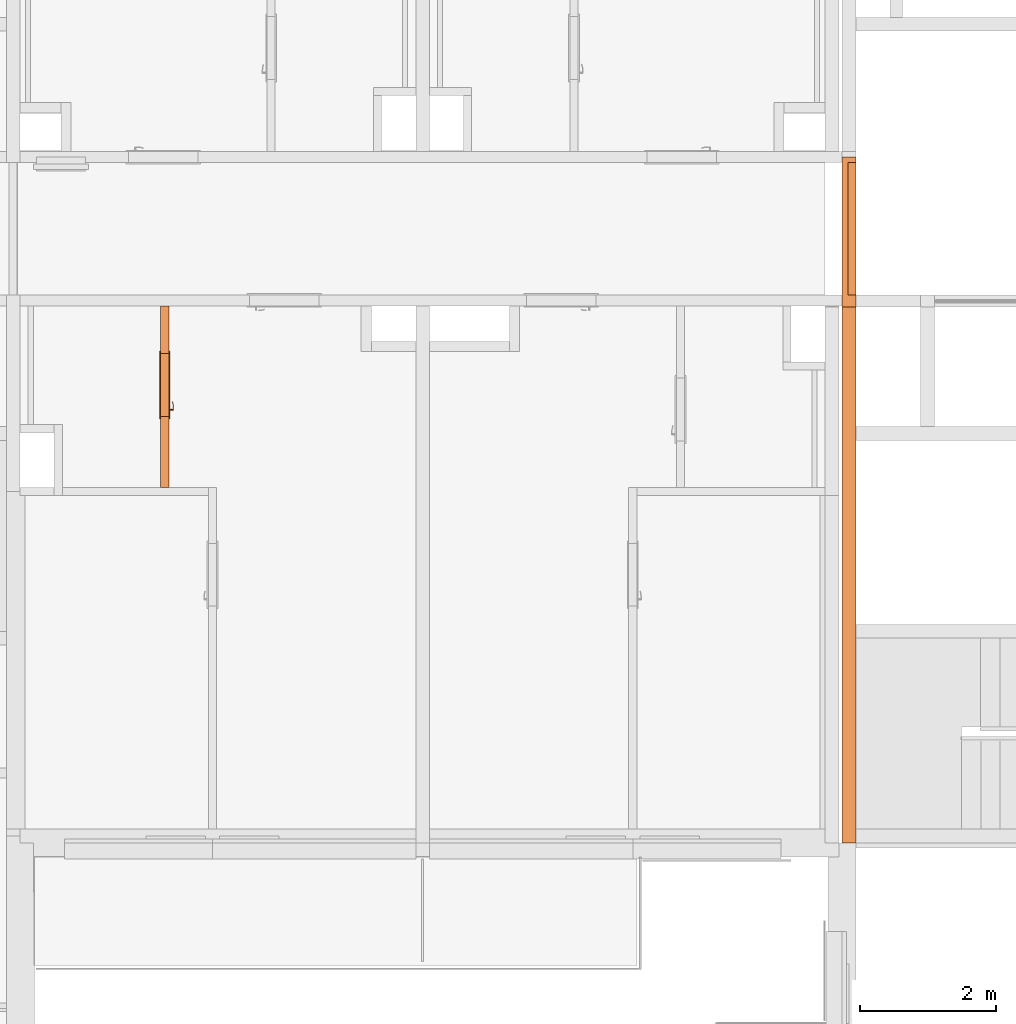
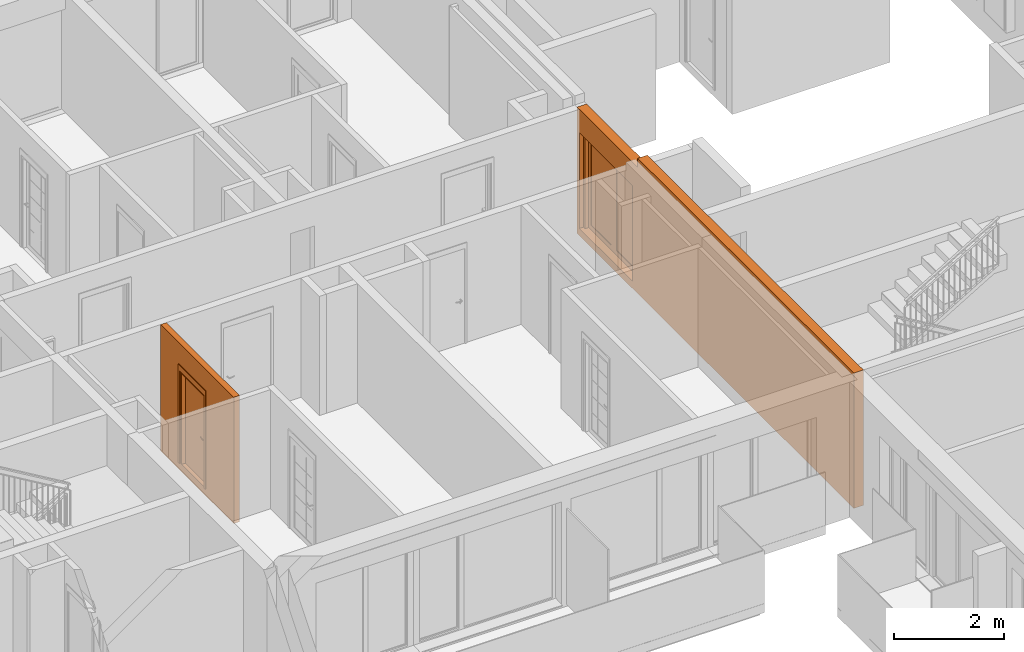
# One storey, part 20 of 66: 4 proxies, 2 openings.
"""IFC2X3 building model written with IfcOpenShell, lengths in millimetres."""

from ifc_helpers import new_model, entity, si_unit, converted_unit, derived_unit, money_unit, direction, frame, origin_with_axes, origin_2d_with_axis, place, context, subcontext, project, spatial, rectangle, extrude, open_shell, faceted_brep, surface_model, source, transform, mapped, material, type_object, element, fill, save


model = new_model("IFC2X3")

# Units and contexts
model_context = context("Model", 3, precision=0.01, world=origin_with_axes(), true_north=direction((0.34421633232, 0.938890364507)))
body_context = subcontext(model_context, "Body", "Model", "MODEL_VIEW")
ifc_project = project(units=[si_unit("LENGTHUNIT", "METRE", prefix="MILLI"), si_unit("AREAUNIT", "SQUARE_METRE"), si_unit("VOLUMEUNIT", "CUBIC_METRE"), converted_unit("PLANEANGLEUNIT", "DEGREE", entity("IfcPlaneAngleMeasure", 0.0174532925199), si_unit("PLANEANGLEUNIT", "RADIAN"), dimensions=[0, 0, 0, 0, 0, 0, 0]), si_unit("SOLIDANGLEUNIT", "STERADIAN"), money_unit("USD"), converted_unit("TIMEUNIT", "Year", entity("IfcTimeMeasure", 31556926.0), si_unit("TIMEUNIT", "SECOND"), dimensions=[0, 0, 1, 0, 0, 0, 0]), si_unit("MASSUNIT", "GRAM", prefix="KILO"), si_unit("THERMODYNAMICTEMPERATUREUNIT", "DEGREE_CELSIUS"), si_unit("LUMINOUSINTENSITYUNIT", "LUMEN"), si_unit("ENERGYUNIT", "JOULE", prefix="MEGA"), derived_unit("THERMALCONDUCTANCEUNIT", [(si_unit("POWERUNIT", "WATT"), 1), (si_unit("LENGTHUNIT", "METRE"), -1), (si_unit("THERMODYNAMICTEMPERATUREUNIT", "KELVIN"), -1)]), derived_unit("SPECIFICHEATCAPACITYUNIT", [(si_unit("ENERGYUNIT", "JOULE"), 1), (si_unit("MASSUNIT", "GRAM", prefix="KILO"), -1), (si_unit("THERMODYNAMICTEMPERATUREUNIT", "KELVIN"), -1)]), derived_unit("MASSDENSITYUNIT", [(si_unit("MASSUNIT", "GRAM", prefix="KILO"), 1), (si_unit("VOLUMEUNIT", "CUBIC_METRE"), -1)])], contexts=[model_context])

# Site, building, storey
site_placement = place(None, origin_with_axes())
site = spatial("IfcSite", under=ifc_project, at=site_placement, Name="USTRONIE MORSKIE", CompositionType="ELEMENT")
building_placement = place(site_placement, origin_with_axes())
building = spatial("IfcBuilding", under=site, at=building_placement, Name="Budynek", CompositionType="ELEMENT")
storey_placement = place(building_placement, frame((0.0, 0.0, 10000.0), z_axis=(0.0, 0.0, 1.0), x_axis=(1.0, 0.0, 0.0)))
storey = spatial("IfcBuildingStorey", under=building, at=storey_placement, Name="PIĘTRO 3", CompositionType="ELEMENT", Elevation=10000.0)

# Proxies, opening
ifc_material_1 = material(Name="Bloczki silikatowe")
building_element_proxy_type_1 = type_object("IfcBuildingElementProxyType", Name="Bloczki silikatowe 120", PredefinedType="NOTDEFINED")
proxy_1_placement = place(storey_placement, frame((398537.940089, 731951.199132, -160.0), z_axis=(0.0, 0.0, 1.0), x_axis=(0.0, 1.0, 0.0)))
proxy_1 = element("IfcBuildingElementProxy", 1, at=proxy_1_placement, inside=storey, type_object=building_element_proxy_type_1, material=ifc_material_1, Name="SW-04", context=body_context, shape_type="Brep", body=[
    faceted_brep([(2720.00298174, -60.0, 2800.0), (2720.00301893, 60.0, 2800.0), (59.9999999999, 60.0, 2800.0), (59.9999999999, -60.0, 2800.0), (2720.00298174, -60.0, 0.0), (2720.00301893, 60.0, 0.0), (59.9999999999, 60.0, 0.0), (59.9999999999, -60.0, 0.0)], [[[0, 1, 2, 3]], [[1, 0, 4, 5]], [[1, 5, 6, 2]], [[7, 3, 2, 6]], [[4, 0, 3, 7]], [[5, 4, 7, 6]]]),
])
opening_1_placement = place(proxy_1_placement, frame((1559.96669926, 0.0, 160.0), z_axis=(0.0, 0.0, 1.0), x_axis=(1.0, 0.0, 0.0)))
opening_1 = element("IfcOpeningElement", 2, at=opening_1_placement, cuts=proxy_1, Name="Dw.4", context=body_context, shape_type="SweptSolid", body=[
    extrude(rectangle(XDim=920.0, YDim=2070.0, at=origin_2d_with_axis()), frame((0.0, 120.0, 1035.0), z_axis=(0.0, 1.0, 0.0), x_axis=(1.0, 0.0, 0.0)), (0.0, 0.0, -1.0), 360.0),
    extrude(rectangle(XDim=994.0, YDim=2177.0, at=origin_2d_with_axis()), frame((0.0, 60.0, 1088.5), z_axis=(0.0, 1.0, 0.0), x_axis=(1.0, 0.0, 0.0)), (0.0, 0.0, 1.0), 120.0),
    extrude(rectangle(XDim=994.0, YDim=2177.0, at=origin_2d_with_axis()), frame((0.0, -60.0, 1088.5), z_axis=(0.0, -1.0, 0.0), x_axis=(1.0, 0.0, 0.0)), (0.0, 0.0, 1.0), 120.0),
])
building_element_proxy_type_2 = type_object("IfcBuildingElementProxyType", Name="Drzwi 23", PredefinedType="NOTDEFINED")
shared_shape_1 = source(origin_with_axes(), body_context, "Body", "SurfaceModel", [
    faceted_brep([(460.0, -115.0, 0.0), (460.0, -120.0, 0.0), (435.0, -120.0, 0.0), (435.0, -115.0, 0.0), (460.0, -115.0, 2070.0), (460.0, -120.0, 2070.0), (435.0, -120.0, 2045.0), (435.0, -115.0, 2045.0)], [[[0, 1, 2, 3]], [[4, 5, 1, 0]], [[1, 5, 6, 2]], [[3, 2, 6, 7]], [[0, 3, 7, 4]], [[7, 6, 5, 4]]]),
    faceted_brep([(-460.0, -115.0, 2070.0), (-460.0, -120.0, 2070.0), (-435.0, -120.0, 2045.0), (-435.0, -115.0, 2045.0), (-460.0, -115.0, 0.0), (-460.0, -120.0, 0.0), (-435.0, -120.0, 0.0), (-435.0, -115.0, 0.0)], [[[0, 1, 2, 3]], [[4, 5, 1, 0]], [[1, 5, 6, 2]], [[3, 2, 6, 7]], [[0, 3, 7, 4]], [[7, 6, 5, 4]]]),
    faceted_brep([(435.0, -115.0, 2045.0), (435.0, -120.0, 2045.0), (-435.0, -120.0, 2045.0), (-435.0, -115.0, 2045.0), (460.0, -115.0, 2070.0), (460.0, -120.0, 2070.0), (-460.0, -120.0, 2070.0), (-460.0, -115.0, 2070.0)], [[[0, 1, 2, 3]], [[4, 5, 1, 0]], [[1, 5, 6, 2]], [[3, 2, 6, 7]], [[0, 3, 7, 4]], [[7, 6, 5, 4]]]),
    faceted_brep([(497.0, -139.0, 0.0), (447.0, -139.0, 0.0), (447.0, -120.0, 0.0), (497.0, -120.0, 0.0), (497.0, -139.0, 2177.0), (447.0, -139.0, 2057.0), (447.0, -120.0, 2057.0), (497.0, -120.0, 2177.0)], [[[0, 1, 2, 3]], [[0, 4, 5, 1]], [[1, 5, 6, 2]], [[3, 2, 6, 7]], [[4, 0, 3, 7]], [[5, 4, 7, 6]]]),
    faceted_brep([(-497.0, -139.0, 2177.0), (-447.0, -139.0, 2057.0), (-447.0, -120.0, 2057.0), (-497.0, -120.0, 2177.0), (-497.0, -139.0, 0.0), (-447.0, -139.0, 0.0), (-447.0, -120.0, 0.0), (-497.0, -120.0, 0.0)], [[[0, 1, 2, 3]], [[0, 4, 5, 1]], [[1, 5, 6, 2]], [[3, 2, 6, 7]], [[4, 0, 3, 7]], [[5, 4, 7, 6]]]),
    faceted_brep([(497.0, -139.0, 2177.0), (447.0, -139.0, 2057.0), (447.0, -120.0, 2057.0), (497.0, -120.0, 2177.0), (-497.0, -139.0, 2177.0), (-447.0, -139.0, 2057.0), (-447.0, -120.0, 2057.0), (-497.0, -120.0, 2177.0)], [[[0, 1, 2, 3]], [[0, 4, 5, 1]], [[1, 5, 6, 2]], [[3, 2, 6, 7]], [[4, 0, 3, 7]], [[5, 4, 7, 6]]]),
    faceted_brep([(497.0, 19.0, 0.0), (497.0, 0.0, 0.0), (447.0, 0.0, 0.0), (447.0, 19.0, 0.0), (497.0, 19.0, 2177.0), (497.0, 0.0, 2177.0), (447.0, 0.0, 2057.0), (447.0, 19.0, 2057.0)], [[[0, 1, 2, 3]], [[4, 5, 1, 0]], [[1, 5, 6, 2]], [[3, 2, 6, 7]], [[0, 3, 7, 4]], [[7, 6, 5, 4]]]),
    faceted_brep([(-497.0, 19.0, 2177.0), (-497.0, 0.0, 2177.0), (-447.0, 0.0, 2057.0), (-447.0, 19.0, 2057.0), (-497.0, 19.0, 0.0), (-497.0, 0.0, 0.0), (-447.0, 0.0, 0.0), (-447.0, 19.0, 0.0)], [[[0, 1, 2, 3]], [[4, 5, 1, 0]], [[1, 5, 6, 2]], [[3, 2, 6, 7]], [[0, 3, 7, 4]], [[7, 6, 5, 4]]]),
    faceted_brep([(497.0, 19.0, 2177.0), (497.0, 0.0, 2177.0), (447.0, 0.0, 2057.0), (447.0, 19.0, 2057.0), (-497.0, 19.0, 2177.0), (-497.0, 0.0, 2177.0), (-447.0, 0.0, 2057.0), (-447.0, 19.0, 2057.0)], [[[0, 1, 2, 3]], [[4, 5, 1, 0]], [[1, 5, 6, 2]], [[3, 2, 6, 7]], [[0, 3, 7, 4]], [[7, 6, 5, 4]]]),
    faceted_brep([(400.0, -40.0, 0.0), (400.0, -115.0, 0.0), (400.0, -115.0, 2000.0), (400.0, -40.0, 2000.0), (412.0, -40.0, 0.0), (412.0, 0.0, 0.0), (460.0, 0.0, 0.0), (460.0, -115.0, 0.0), (460.0, -115.0, 2000.0), (412.0, -40.0, 2000.0), (460.0, 0.0, 2000.0), (412.0, 0.0, 2000.0)], [[[0, 1, 2, 3]], [[4, 5, 6, 7, 1, 0]], [[1, 7, 8, 2]], [[9, 3, 2, 8, 10, 11]], [[9, 4, 0, 3]], [[11, 5, 4, 9]], [[11, 10, 6, 5]], [[6, 10, 8, 7]]]),
    faceted_brep([(-412.0, -40.0, 2000.0), (-412.0, 0.0, 2000.0), (-460.0, 0.0, 2000.0), (-460.0, -115.0, 2000.0), (-400.0, -115.0, 2000.0), (-400.0, -40.0, 2000.0), (-412.0, -40.0, 0.0), (-412.0, 0.0, 0.0), (-460.0, 0.0, 0.0), (-460.0, -115.0, 0.0), (-400.0, -115.0, 0.0), (-400.0, -40.0, 0.0)], [[[0, 1, 2, 3, 4, 5]], [[0, 6, 7, 1]], [[7, 8, 2, 1]], [[2, 8, 9, 3]], [[3, 9, 10, 4]], [[5, 4, 10, 11]], [[5, 11, 6, 0]], [[6, 11, 10, 9, 8, 7]]]),
    faceted_brep([(412.0, 0.0, 2012.0), (-412.0, 0.0, 2012.0), (-412.0, 0.0, 2000.0), (-460.0, 0.0, 2000.0), (-460.0, 0.0, 2070.0), (460.0, 0.0, 2070.0), (460.0, 0.0, 2000.0), (412.0, 0.0, 2000.0), (412.0, -40.0, 2012.0), (-412.0, -40.0, 2012.0), (-412.0, -40.0, 2000.0), (-400.0, -40.0, 2000.0), (-400.0, -115.0, 2000.0), (-460.0, -115.0, 2000.0), (-460.0, -115.0, 2070.0), (460.0, -115.0, 2070.0), (460.0, -115.0, 2000.0), (412.0, -40.0, 2000.0), (400.0, -115.0, 2000.0), (400.0, -40.0, 2000.0)], [[[0, 1, 2, 3, 4, 5, 6, 7]], [[0, 8, 9, 1]], [[1, 9, 10, 2]], [[10, 11, 12, 13, 3, 2]], [[4, 3, 13, 14]], [[5, 4, 14, 15]], [[6, 5, 15, 16]], [[17, 7, 6, 16, 18, 19]], [[7, 17, 8, 0]], [[10, 9, 8, 17, 19, 11]], [[19, 18, 12, 11]], [[12, 18, 16, 15, 14, 13]]]),
    faceted_brep([(390.5, -40.0, 1060.0), (333.5, -40.0, 1060.0), (333.5, -43.0, 1060.0), (390.5, -43.0, 1060.0), (390.5, -40.0, 870.0), (333.5, -40.0, 870.0), (333.5, -43.0, 870.0), (390.5, -43.0, 870.0)], [[[0, 1, 2, 3]], [[0, 4, 5, 1]], [[1, 5, 6, 2]], [[3, 2, 6, 7]], [[4, 0, 3, 7]], [[5, 4, 7, 6]]]),
    faceted_brep([(362.0, -104.0, 990.0), (367.0, -104.0, 991.339745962), (367.0, -111.0, 991.339745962), (362.0, -111.0, 990.0), (337.0, -104.0, 990.0), (337.0, -104.0, 1010.0), (362.0, -104.0, 1010.0), (367.0, -104.0, 1008.66025404), (370.660254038, -104.0, 1005.0), (372.0, -104.0, 1000.0), (370.660254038, -104.0, 995.0), (370.660254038, -111.0, 995.0), (372.0, -111.0, 1000.0), (370.660254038, -111.0, 1005.0), (367.0, -111.0, 1008.66025404), (362.0, -111.0, 1010.0), (337.0, -111.0, 1010.0), (337.0, -111.0, 990.0)], [[[0, 1, 2, 3]], [[0, 4, 5, 6, 7, 8, 9, 10, 1]], [[1, 10, 11, 2]], [[3, 2, 11, 12, 13, 14, 15, 16, 17]], [[4, 0, 3, 17]], [[5, 4, 17, 16]], [[6, 5, 16, 15]], [[7, 6, 15, 14]], [[8, 7, 14, 13]], [[9, 8, 13, 12]], [[10, 9, 12, 11]]]),
    surface_model("IfcShellBasedSurfaceModel", [(337.0, -104.0, 1010.0), (323.901717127, -104.0, 1009.60730092), (323.596090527, -111.0, 1009.60730092), (337.0, -104.0, 990.0), (323.901717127, -104.0, 990.392699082), (296.890283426, -108.663544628, 1008.82190275), (337.0, -111.0, 1010.0), (337.0, -111.0, 990.0), (297.804837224, -101.716818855, 991.178097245), (297.804837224, -101.716818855, 1008.82190275), (296.890283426, -108.663544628, 991.178097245), (323.596090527, -111.0, 990.392699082), (272.006256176, -97.1678329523, 991.963495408), (272.006256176, -97.1678329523, 1008.03650459), (270.489735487, -104.008415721, 1008.03650459), (270.489735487, -104.008415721, 991.963495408), (246.702316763, -90.3876628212, 992.748893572), (246.702316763, -90.3876628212, 1007.25110643), (244.59537082, -97.0700416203, 1007.25110643), (244.59537082, -97.0700416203, 992.748893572), (238.829442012, -87.5221707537, 993.0), (238.829442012, -87.5221707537, 1007.0), (236.538795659, -94.1376880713, 1007.0), (236.538795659, -94.1376880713, 993.0)], [open_shell([[[0, 1, 2]], [[0, 3, 4, 1]], [[1, 5, 2]], [[0, 2, 6]], [[4, 3, 7]], [[1, 4, 8, 9]], [[1, 9, 5]], [[2, 5, 10, 11]], [[6, 2, 11, 7]], [[4, 7, 11]], [[8, 4, 11]], [[9, 8, 12, 13]], [[9, 14, 5]], [[5, 14, 15, 10]], [[8, 11, 10]], [[12, 8, 10]], [[13, 12, 16, 17]], [[9, 13, 14]], [[14, 18, 19, 15]], [[12, 10, 15]], [[16, 12, 15]], [[17, 16, 20, 21]], [[13, 17, 18]], [[13, 18, 14]], [[18, 22, 23, 19]], [[16, 15, 19]], [[20, 16, 19]], [[21, 20, 23, 22]], [[17, 21, 22]], [[17, 22, 18]], [[20, 19, 23]]])]),
    faceted_brep([(351.607695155, -53.0, 994.0), (350.0, -53.0, 1000.0), (349.0, -43.0, 1000.0), (350.741669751, -43.0, 993.5), (356.0, -53.0, 989.607695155), (362.0, -53.0, 988.0), (368.0, -53.0, 989.607695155), (372.392304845, -53.0, 994.0), (374.0, -53.0, 1000.0), (372.392304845, -53.0, 1006.0), (368.0, -53.0, 1010.39230485), (362.0, -53.0, 1012.0), (356.0, -53.0, 1010.39230485), (351.607695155, -53.0, 1006.0), (350.741669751, -43.0, 1006.5), (355.5, -43.0, 1011.25833025), (362.0, -43.0, 1013.0), (368.5, -43.0, 1011.25833025), (373.258330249, -43.0, 1006.5), (375.0, -43.0, 1000.0), (373.258330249, -43.0, 993.5), (368.5, -43.0, 988.741669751), (362.0, -43.0, 987.0), (355.5, -43.0, 988.741669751)], [[[0, 1, 2, 3]], [[1, 0, 4, 5, 6, 7, 8, 9, 10, 11, 12, 13]], [[1, 13, 14, 2]], [[2, 14, 15, 16, 17, 18, 19, 20, 21, 22, 23, 3]], [[4, 0, 3, 23]], [[5, 4, 23, 22]], [[6, 5, 22, 21]], [[7, 6, 21, 20]], [[8, 7, 20, 19]], [[9, 8, 19, 18]], [[10, 9, 18, 17]], [[11, 10, 17, 16]], [[12, 11, 16, 15]], [[13, 12, 15, 14]]]),
    faceted_brep([(344.679491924, -47.0, 895.0), (342.0, -47.0, 905.0), (340.0, -43.0, 905.0), (342.947441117, -43.0, 894.0), (352.0, -47.0, 887.679491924), (362.0, -47.0, 885.0), (372.0, -47.0, 887.679491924), (379.320508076, -47.0, 895.0), (382.0, -47.0, 905.0), (379.320508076, -47.0, 915.0), (372.0, -47.0, 922.320508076), (362.0, -47.0, 925.0), (352.0, -47.0, 922.320508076), (344.679491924, -47.0, 915.0), (342.947441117, -43.0, 916.0), (351.0, -43.0, 924.052558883), (362.0, -43.0, 927.0), (373.0, -43.0, 924.052558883), (381.052558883, -43.0, 916.0), (384.0, -43.0, 905.0), (381.052558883, -43.0, 894.0), (373.0, -43.0, 885.947441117), (362.0, -43.0, 883.0), (351.0, -43.0, 885.947441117)], [[[0, 1, 2, 3]], [[1, 0, 4, 5, 6, 7, 8, 9, 10, 11, 12, 13]], [[1, 13, 14, 2]], [[2, 14, 15, 16, 17, 18, 19, 20, 21, 22, 23, 3]], [[4, 0, 3, 23]], [[5, 4, 23, 22]], [[6, 5, 22, 21]], [[7, 6, 21, 20]], [[8, 7, 20, 19]], [[9, 8, 19, 18]], [[10, 9, 18, 17]], [[11, 10, 17, 16]], [[12, 11, 16, 15]], [[13, 12, 15, 14]]]),
    faceted_brep([(357.050252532, -49.0, 909.050252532), (355.0, -49.0, 914.0), (354.0, -47.0, 914.0), (356.343145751, -47.0, 908.343145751), (362.0, -49.0, 907.0), (366.949747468, -49.0, 909.050252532), (369.0, -49.0, 914.0), (366.949747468, -49.0, 918.949747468), (362.0, -49.0, 921.0), (357.050252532, -49.0, 918.949747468), (356.343145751, -47.0, 919.656854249), (362.0, -47.0, 922.0), (367.656854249, -47.0, 919.656854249), (370.0, -47.0, 914.0), (367.656854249, -47.0, 908.343145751), (362.0, -47.0, 906.0)], [[[0, 1, 2, 3]], [[1, 0, 4, 5, 6, 7, 8, 9]], [[1, 9, 10, 2]], [[2, 10, 11, 12, 13, 14, 15, 3]], [[4, 0, 3, 15]], [[5, 4, 15, 14]], [[6, 5, 14, 13]], [[7, 6, 13, 12]], [[8, 7, 12, 11]], [[9, 8, 11, 10]]]),
    faceted_brep([(362.0, -53.0, 1010.0), (357.0, -53.0, 1008.66025404), (357.0, -104.0, 1008.66025404), (362.0, -104.0, 1010.0), (367.0, -53.0, 1008.66025404), (370.660254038, -53.0, 1005.0), (372.0, -53.0, 1000.0), (370.660254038, -53.0, 995.0), (367.0, -53.0, 991.339745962), (362.0, -53.0, 990.0), (357.0, -53.0, 991.339745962), (353.339745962, -53.0, 995.0), (352.0, -53.0, 1000.0), (353.339745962, -53.0, 1005.0), (353.339745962, -104.0, 1005.0), (352.0, -104.0, 1000.0), (353.339745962, -104.0, 995.0), (357.0, -104.0, 991.339745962), (362.0, -104.0, 990.0), (367.0, -104.0, 991.339745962), (370.660254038, -104.0, 995.0), (372.0, -104.0, 1000.0), (370.660254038, -104.0, 1005.0), (367.0, -104.0, 1008.66025404)], [[[0, 1, 2, 3]], [[0, 4, 5, 6, 7, 8, 9, 10, 11, 12, 13, 1]], [[1, 13, 14, 2]], [[3, 2, 14, 15, 16, 17, 18, 19, 20, 21, 22, 23]], [[4, 0, 3, 23]], [[5, 4, 23, 22]], [[6, 5, 22, 21]], [[7, 6, 21, 20]], [[8, 7, 20, 19]], [[9, 8, 19, 18]], [[10, 9, 18, 17]], [[11, 10, 17, 16]], [[12, 11, 16, 15]], [[13, 12, 15, 14]]]),
    faceted_brep([(390.5, 0.0, 1060.0), (390.5, 3.0, 1060.0), (333.5, 3.0, 1060.0), (333.5, 0.0, 1060.0), (390.5, 0.0, 870.0), (390.5, 3.0, 870.0), (333.5, 3.0, 870.0), (333.5, 0.0, 870.0)], [[[0, 1, 2, 3]], [[4, 5, 1, 0]], [[1, 5, 6, 2]], [[3, 2, 6, 7]], [[0, 3, 7, 4]], [[7, 6, 5, 4]]]),
    faceted_brep([(362.0, 64.0, 990.0), (362.0, 71.0, 990.0), (367.0, 71.0, 991.339745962), (367.0, 64.0, 991.339745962), (337.0, 64.0, 990.0), (337.0, 71.0, 990.0), (337.0, 71.0, 1010.0), (362.0, 71.0, 1010.0), (367.0, 71.0, 1008.66025404), (370.660254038, 71.0, 1005.0), (372.0, 71.0, 1000.0), (370.660254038, 71.0, 995.0), (370.660254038, 64.0, 995.0), (372.0, 64.0, 1000.0), (370.660254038, 64.0, 1005.0), (367.0, 64.0, 1008.66025404), (362.0, 64.0, 1010.0), (337.0, 64.0, 1010.0)], [[[0, 1, 2, 3]], [[4, 5, 1, 0]], [[1, 5, 6, 7, 8, 9, 10, 11, 2]], [[3, 2, 11, 12]], [[0, 3, 12, 13, 14, 15, 16, 17, 4]], [[17, 6, 5, 4]], [[16, 7, 6, 17]], [[15, 8, 7, 16]], [[14, 9, 8, 15]], [[13, 10, 9, 14]], [[12, 11, 10, 13]]]),
    surface_model("IfcShellBasedSurfaceModel", [(337.0, 64.0, 1010.0), (323.596090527, 71.0, 1009.60730092), (323.901717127, 64.0, 1009.60730092), (337.0, 71.0, 1010.0), (296.890283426, 68.6635446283, 1008.82190275), (323.901717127, 64.0, 990.392699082), (337.0, 64.0, 990.0), (337.0, 71.0, 990.0), (323.596090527, 71.0, 990.392699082), (296.890283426, 68.6635446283, 991.178097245), (297.804837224, 61.716818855, 1008.82190275), (297.804837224, 61.716818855, 991.178097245), (270.489735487, 64.0084157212, 991.963495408), (270.489735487, 64.0084157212, 1008.03650459), (272.006256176, 57.1678329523, 1008.03650459), (272.006256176, 57.1678329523, 991.963495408), (244.59537082, 57.0700416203, 992.748893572), (244.59537082, 57.0700416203, 1007.25110643), (246.702316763, 50.3876628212, 1007.25110643), (246.702316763, 50.3876628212, 992.748893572), (236.538795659, 54.1376880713, 993.0), (236.538795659, 54.1376880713, 1007.0), (238.829442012, 47.5221707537, 1007.0), (238.829442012, 47.5221707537, 993.0)], [open_shell([[[0, 1, 2]], [[0, 3, 1]], [[2, 1, 4]], [[0, 2, 5, 6]], [[3, 7, 8, 1]], [[1, 8, 9, 4]], [[2, 4, 10]], [[2, 10, 11, 5]], [[5, 7, 6]], [[5, 8, 7]], [[11, 9, 8]], [[4, 9, 12, 13]], [[10, 4, 13]], [[10, 14, 15, 11]], [[11, 8, 5]], [[15, 9, 11]], [[15, 12, 9]], [[13, 12, 16, 17]], [[10, 13, 14]], [[14, 18, 19, 15]], [[19, 12, 15]], [[19, 16, 12]], [[17, 16, 20, 21]], [[14, 13, 17]], [[14, 17, 18]], [[18, 22, 23, 19]], [[23, 16, 19]], [[23, 20, 16]], [[22, 21, 20, 23]], [[18, 17, 21]], [[18, 21, 22]]])]),
    faceted_brep([(351.607695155, 13.0, 994.0), (350.741669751, 3.0, 993.5), (349.0, 3.0, 1000.0), (350.0, 13.0, 1000.0), (356.0, 13.0, 989.607695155), (355.5, 3.0, 988.741669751), (362.0, 3.0, 987.0), (368.5, 3.0, 988.741669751), (373.258330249, 3.0, 993.5), (375.0, 3.0, 1000.0), (373.258330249, 3.0, 1006.5), (368.5, 3.0, 1011.25833025), (362.0, 3.0, 1013.0), (355.5, 3.0, 1011.25833025), (350.741669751, 3.0, 1006.5), (351.607695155, 13.0, 1006.0), (356.0, 13.0, 1010.39230485), (362.0, 13.0, 1012.0), (368.0, 13.0, 1010.39230485), (372.392304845, 13.0, 1006.0), (374.0, 13.0, 1000.0), (372.392304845, 13.0, 994.0), (368.0, 13.0, 989.607695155), (362.0, 13.0, 988.0)], [[[0, 1, 2, 3]], [[4, 5, 1, 0]], [[2, 1, 5, 6, 7, 8, 9, 10, 11, 12, 13, 14]], [[3, 2, 14, 15]], [[3, 15, 16, 17, 18, 19, 20, 21, 22, 23, 4, 0]], [[23, 6, 5, 4]], [[22, 7, 6, 23]], [[21, 8, 7, 22]], [[20, 9, 8, 21]], [[19, 10, 9, 20]], [[18, 11, 10, 19]], [[17, 12, 11, 18]], [[16, 13, 12, 17]], [[15, 14, 13, 16]]]),
    faceted_brep([(344.679491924, 7.0, 895.0), (342.947441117, 3.0, 894.0), (340.0, 3.0, 905.0), (342.0, 7.0, 905.0), (352.0, 7.0, 887.679491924), (351.0, 3.0, 885.947441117), (362.0, 3.0, 883.0), (373.0, 3.0, 885.947441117), (381.052558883, 3.0, 894.0), (384.0, 3.0, 905.0), (381.052558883, 3.0, 916.0), (373.0, 3.0, 924.052558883), (362.0, 3.0, 927.0), (351.0, 3.0, 924.052558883), (342.947441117, 3.0, 916.0), (344.679491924, 7.0, 915.0), (352.0, 7.0, 922.320508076), (362.0, 7.0, 925.0), (372.0, 7.0, 922.320508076), (379.320508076, 7.0, 915.0), (382.0, 7.0, 905.0), (379.320508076, 7.0, 895.0), (372.0, 7.0, 887.679491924), (362.0, 7.0, 885.0)], [[[0, 1, 2, 3]], [[4, 5, 1, 0]], [[2, 1, 5, 6, 7, 8, 9, 10, 11, 12, 13, 14]], [[3, 2, 14, 15]], [[3, 15, 16, 17, 18, 19, 20, 21, 22, 23, 4, 0]], [[23, 6, 5, 4]], [[22, 7, 6, 23]], [[21, 8, 7, 22]], [[20, 9, 8, 21]], [[19, 10, 9, 20]], [[18, 11, 10, 19]], [[17, 12, 11, 18]], [[16, 13, 12, 17]], [[15, 14, 13, 16]]]),
    faceted_brep([(357.050252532, 9.0, 909.050252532), (356.343145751, 7.0, 908.343145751), (354.0, 7.0, 914.0), (355.0, 9.0, 914.0), (362.0, 9.0, 907.0), (362.0, 7.0, 906.0), (367.656854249, 7.0, 908.343145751), (370.0, 7.0, 914.0), (367.656854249, 7.0, 919.656854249), (362.0, 7.0, 922.0), (356.343145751, 7.0, 919.656854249), (357.050252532, 9.0, 918.949747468), (362.0, 9.0, 921.0), (366.949747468, 9.0, 918.949747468), (369.0, 9.0, 914.0), (366.949747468, 9.0, 909.050252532)], [[[0, 1, 2, 3]], [[4, 5, 1, 0]], [[2, 1, 5, 6, 7, 8, 9, 10]], [[3, 2, 10, 11]], [[3, 11, 12, 13, 14, 15, 4, 0]], [[15, 6, 5, 4]], [[14, 7, 6, 15]], [[13, 8, 7, 14]], [[12, 9, 8, 13]], [[11, 10, 9, 12]]]),
    faceted_brep([(362.0, 13.0, 1010.0), (362.0, 64.0, 1010.0), (357.0, 64.0, 1008.66025404), (357.0, 13.0, 1008.66025404), (367.0, 13.0, 1008.66025404), (367.0, 64.0, 1008.66025404), (370.660254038, 64.0, 1005.0), (372.0, 64.0, 1000.0), (370.660254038, 64.0, 995.0), (367.0, 64.0, 991.339745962), (362.0, 64.0, 990.0), (357.0, 64.0, 991.339745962), (353.339745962, 64.0, 995.0), (352.0, 64.0, 1000.0), (353.339745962, 64.0, 1005.0), (353.339745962, 13.0, 1005.0), (352.0, 13.0, 1000.0), (353.339745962, 13.0, 995.0), (357.0, 13.0, 991.339745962), (362.0, 13.0, 990.0), (367.0, 13.0, 991.339745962), (370.660254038, 13.0, 995.0), (372.0, 13.0, 1000.0), (370.660254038, 13.0, 1005.0)], [[[0, 1, 2, 3]], [[4, 5, 1, 0]], [[1, 5, 6, 7, 8, 9, 10, 11, 12, 13, 14, 2]], [[3, 2, 14, 15]], [[0, 3, 15, 16, 17, 18, 19, 20, 21, 22, 23, 4]], [[23, 6, 5, 4]], [[22, 7, 6, 23]], [[21, 8, 7, 22]], [[20, 9, 8, 21]], [[19, 10, 9, 20]], [[18, 11, 10, 19]], [[17, 12, 11, 18]], [[16, 13, 12, 17]], [[15, 14, 13, 16]]]),
    faceted_brep([(-412.0, 0.0, 0.0), (412.0, 0.0, 0.0), (412.0, -40.0, 0.0), (-412.0, -40.0, 0.0), (-412.0, 0.0, 2012.0), (412.0, 0.0, 2012.0), (412.0, -40.0, 2012.0), (-412.0, -40.0, 2012.0)], [[[0, 1, 2, 3]], [[0, 4, 5, 1]], [[1, 5, 6, 2]], [[3, 2, 6, 7]], [[4, 0, 3, 7]], [[5, 4, 7, 6]]]),
])
proxy_2_placement = place(opening_1_placement, frame((400.0, 0.0, 0.0), z_axis=(0.0, 0.0, 1.0), x_axis=(-1.0, 0.0, 0.0)))
proxy_2 = element("IfcBuildingElementProxy", 3, at=proxy_2_placement, inside=storey, type_object=building_element_proxy_type_2, Name="Dw.4", context=body_context, shape_type="MappedRepresentation", body=[
    mapped(shared_shape_1, transform((400.0, 60.0, 0.0))),
])
fill(opening_1, proxy_2)

ifc_material_2 = material(Name="Beton konstrukcyjny B25")
building_element_proxy_type_3 = type_object("IfcBuildingElementProxyType", Name="Beton konstrukcyjny B25 200", PredefinedType="NOTDEFINED")
proxy_3_placement = place(storey_placement, frame((408567.920919, 726801.199036, -160.0), z_axis=(0.0, 0.0, 1.0), x_axis=(0.0, 1.0, 0.0)))
proxy_3 = element("IfcBuildingElementProxy", 4, at=proxy_3_placement, inside=storey, type_object=building_element_proxy_type_3, material=ifc_material_2, Name="SW-01", context=body_context, shape_type="Brep", body=[
    faceted_brep([(10050.0, 100.0, 0.0), (10050.0, 100.0, 2800.0), (10050.0, -100.0, 2800.0), (10050.0, -100.0, 0.0), (7849.99994909, 100.0, 3000.0), (7849.99994909, 100.0, 2800.0), (0.0, 100.0, 0.0), (0.0, 100.0, 3000.0), (7849.99994909, -100.0, 2800.0), (7849.99994909, -100.0, 3000.0), (6100.0, -100.0, 3000.0), (6100.0, -100.0, 2800.0), (3199.9996728, -100.0, 2800.0), (3199.9996728, -100.0, 3000.0), (0.0, -100.0, 3000.0), (0.0, -100.0, 0.0), (3199.99967279, -99.9169386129, 3000.0), (6100.0, -99.9169386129, 3000.0), (6100.0, -99.9169386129, 2800.0), (3199.99967279, -99.9169386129, 2800.0)], [[[0, 1, 2, 3]], [[4, 5, 1, 0, 6, 7]], [[5, 8, 2, 1]], [[2, 8, 9, 10, 11, 12, 13, 14, 15, 3]], [[0, 3, 15, 6]], [[5, 4, 9, 8]], [[14, 7, 6, 15]], [[10, 9, 4, 7, 14, 13, 16, 17]], [[18, 11, 10, 17]], [[19, 12, 11, 18]], [[19, 16, 13, 12]], [[18, 17, 16, 19]]]),
])
opening_2_placement = place(proxy_3_placement, frame((8999.99926912, 0.0, 160.0), z_axis=(0.0, 0.0, 1.0), x_axis=(1.0, 0.0, 0.0)))
opening_2 = element("IfcOpeningElement", 5, at=opening_2_placement, cuts=proxy_3, Name="Dw.6", context=body_context, shape_type="SweptSolid", body=[
    extrude(rectangle(XDim=1940.0, YDim=2120.0, at=origin_2d_with_axis()), frame((0.0, 200.0, 1060.0), z_axis=(0.0, -1.0, 0.0), x_axis=(-1.0, 0.0, 0.0)), (0.0, 0.0, 1.0), 600.0),
])
building_element_proxy_type_4 = type_object("IfcBuildingElementProxyType", Name="Drzwi podwójne 23", PredefinedType="NOTDEFINED")
shared_shape_2 = source(origin_with_axes(), body_context, "Body", "SurfaceModel", [
    faceted_brep([(-910.0, -40.0, 0.0), (-910.0, -40.0, 2050.0), (-910.0, -115.0, 2050.0), (-910.0, -115.0, 0.0), (-922.0, -40.0, 2050.0), (-922.0, -40.0, 0.0), (-922.0, 0.0, 2050.0), (-970.0, 0.0, 2050.0), (-970.0, -115.0, 2050.0), (-970.0, -115.0, 0.0), (-970.0, 0.0, 0.0), (-922.0, 0.0, 0.0)], [[[0, 1, 2, 3]], [[4, 1, 0, 5]], [[4, 6, 7, 8, 2, 1]], [[3, 2, 8, 9]], [[5, 0, 3, 9, 10, 11]], [[6, 4, 5, 11]], [[6, 11, 10, 7]], [[10, 9, 8, 7]]]),
    faceted_brep([(922.0, -40.0, 2050.0), (910.0, -40.0, 2050.0), (910.0, -115.0, 2050.0), (970.0, -115.0, 2050.0), (970.0, 0.0, 2050.0), (922.0, 0.0, 2050.0), (922.0, -40.0, 0.0), (910.0, -40.0, 0.0), (910.0, -115.0, 0.0), (970.0, -115.0, 0.0), (970.0, 0.0, 0.0), (922.0, 0.0, 0.0)], [[[0, 1, 2, 3, 4, 5]], [[1, 0, 6, 7]], [[1, 7, 8, 2]], [[3, 2, 8, 9]], [[4, 3, 9, 10]], [[11, 5, 4, 10]], [[0, 5, 11, 6]], [[6, 11, 10, 9, 8, 7]]]),
    faceted_brep([(-922.0, 0.0, 2062.0), (-922.0, 0.0, 2050.0), (-970.0, 0.0, 2050.0), (-970.0, 0.0, 2120.0), (970.0, 0.0, 2120.0), (970.0, 0.0, 2050.0), (922.0, 0.0, 2050.0), (922.0, 0.0, 2062.0), (-922.0, -40.0, 2062.0), (-922.0, -40.0, 2050.0), (-910.0, -40.0, 2050.0), (-910.0, -115.0, 2050.0), (-970.0, -115.0, 2050.0), (-970.0, -115.0, 2120.0), (970.0, -115.0, 2120.0), (970.0, -115.0, 2050.0), (922.0, -40.0, 2050.0), (910.0, -115.0, 2050.0), (910.0, -40.0, 2050.0), (922.0, -40.0, 2062.0)], [[[0, 1, 2, 3, 4, 5, 6, 7]], [[1, 0, 8, 9]], [[9, 10, 11, 12, 2, 1]], [[2, 12, 13, 3]], [[3, 13, 14, 4]], [[4, 14, 15, 5]], [[16, 6, 5, 15, 17, 18]], [[7, 6, 16, 19]], [[0, 7, 19, 8]], [[16, 18, 10, 9, 8, 19]], [[10, 18, 17, 11]], [[17, 15, 14, 13, 12, 11]]]),
    faceted_brep([(922.0, 0.0, 100.0), (922.0, -40.0, 100.0), (822.0, -40.0, 100.0), (822.0, 0.0, 100.0), (922.0, 0.0, 1962.0), (922.0, -40.0, 1962.0), (822.0, -40.0, 1962.0), (822.0, 0.0, 1962.0)], [[[0, 1, 2, 3]], [[4, 5, 1, 0]], [[1, 5, 6, 2]], [[3, 2, 6, 7]], [[0, 3, 7, 4]], [[7, 6, 5, 4]]]),
    faceted_brep([(0.0, 0.0, 100.0), (0.0, -40.0, 100.0), (0.0, -40.0, 1962.0), (0.0, 0.0, 1962.0), (100.0, 0.0, 100.0), (100.0, -40.0, 100.0), (100.0, -40.0, 1962.0), (100.0, 0.0, 1962.0)], [[[0, 1, 2, 3]], [[4, 5, 1, 0]], [[1, 5, 6, 2]], [[3, 2, 6, 7]], [[0, 3, 7, 4]], [[7, 6, 5, 4]]]),
    faceted_brep([(922.0, 0.0, 0.0), (922.0, -40.0, 0.0), (0.0, -40.0, 0.0), (0.0, 0.0, 0.0), (922.0, 0.0, 100.0), (922.0, -40.0, 100.0), (822.0, -40.0, 100.0), (100.0, -40.0, 100.0), (0.0, -40.0, 100.0), (0.0, 0.0, 100.0), (100.0, 0.0, 100.0), (822.0, 0.0, 100.0)], [[[0, 1, 2, 3]], [[4, 5, 1, 0]], [[1, 5, 6, 7, 8, 2]], [[3, 2, 8, 9]], [[0, 3, 9, 10, 11, 4]], [[11, 6, 5, 4]], [[10, 7, 6, 11]], [[9, 8, 7, 10]]]),
    faceted_brep([(922.0, 0.0, 2062.0), (922.0, -40.0, 2062.0), (922.0, -40.0, 1962.0), (922.0, 0.0, 1962.0), (0.0, 0.0, 2062.0), (0.0, -40.0, 2062.0), (0.0, -40.0, 1962.0), (100.0, -40.0, 1962.0), (822.0, -40.0, 1962.0), (822.0, 0.0, 1962.0), (100.0, 0.0, 1962.0), (0.0, 0.0, 1962.0)], [[[0, 1, 2, 3]], [[4, 5, 1, 0]], [[1, 5, 6, 7, 8, 2]], [[3, 2, 8, 9]], [[0, 3, 9, 10, 11, 4]], [[11, 6, 5, 4]], [[10, 7, 6, 11]], [[9, 8, 7, 10]]]),
    surface_model("IfcShellBasedSurfaceModel", [(822.0, -14.0, 100.0), (100.0, -14.0, 100.0), (100.0, -14.0, 1962.0), (822.0, -14.0, 1962.0)], [open_shell([[[0, 1, 2, 3]]])]),
    surface_model("IfcShellBasedSurfaceModel", [(822.0, -26.0, 100.0), (822.0, -26.0, 1962.0), (100.0, -26.0, 1962.0), (100.0, -26.0, 100.0)], [open_shell([[[0, 1, 2, 3]]])]),
    faceted_brep([(-922.0, 0.0, 100.0), (-822.0, 0.0, 100.0), (-822.0, -40.0, 100.0), (-922.0, -40.0, 100.0), (-922.0, 0.0, 1962.0), (-822.0, 0.0, 1962.0), (-822.0, -40.0, 1962.0), (-922.0, -40.0, 1962.0)], [[[0, 1, 2, 3]], [[0, 4, 5, 1]], [[1, 5, 6, 2]], [[3, 2, 6, 7]], [[4, 0, 3, 7]], [[5, 4, 7, 6]]]),
    faceted_brep([(0.0, 0.0, 100.0), (0.0, 0.0, 1962.0), (0.0, -40.0, 1962.0), (0.0, -40.0, 100.0), (-100.0, 0.0, 100.0), (-100.0, 0.0, 1962.0), (-100.0, -40.0, 1962.0), (-100.0, -40.0, 100.0)], [[[0, 1, 2, 3]], [[0, 4, 5, 1]], [[1, 5, 6, 2]], [[3, 2, 6, 7]], [[4, 0, 3, 7]], [[5, 4, 7, 6]]]),
    faceted_brep([(-922.0, 0.0, 0.0), (0.0, 0.0, 0.0), (0.0, -40.0, 0.0), (-922.0, -40.0, 0.0), (-922.0, 0.0, 100.0), (-822.0, 0.0, 100.0), (-100.0, 0.0, 100.0), (0.0, 0.0, 100.0), (0.0, -40.0, 100.0), (-100.0, -40.0, 100.0), (-822.0, -40.0, 100.0), (-922.0, -40.0, 100.0)], [[[0, 1, 2, 3]], [[0, 4, 5, 6, 7, 1]], [[1, 7, 8, 2]], [[3, 2, 8, 9, 10, 11]], [[4, 0, 3, 11]], [[5, 4, 11, 10]], [[6, 5, 10, 9]], [[7, 6, 9, 8]]]),
    faceted_brep([(-922.0, 0.0, 2062.0), (-922.0, 0.0, 1962.0), (-922.0, -40.0, 1962.0), (-922.0, -40.0, 2062.0), (0.0, 0.0, 2062.0), (0.0, 0.0, 1962.0), (-100.0, 0.0, 1962.0), (-822.0, 0.0, 1962.0), (-822.0, -40.0, 1962.0), (-100.0, -40.0, 1962.0), (0.0, -40.0, 1962.0), (0.0, -40.0, 2062.0)], [[[0, 1, 2, 3]], [[0, 4, 5, 6, 7, 1]], [[1, 7, 8, 2]], [[3, 2, 8, 9, 10, 11]], [[4, 0, 3, 11]], [[5, 4, 11, 10]], [[6, 5, 10, 9]], [[7, 6, 9, 8]]]),
    surface_model("IfcShellBasedSurfaceModel", [(-822.0, -14.0, 100.0), (-822.0, -14.0, 1962.0), (-100.0, -14.0, 1962.0), (-100.0, -14.0, 100.0)], [open_shell([[[0, 1, 2, 3]]])]),
    surface_model("IfcShellBasedSurfaceModel", [(-822.0, -26.0, 100.0), (-100.0, -26.0, 100.0), (-100.0, -26.0, 1962.0), (-822.0, -26.0, 1962.0)], [open_shell([[[0, 1, 2, 3]]])]),
])
proxy_4_placement = place(opening_2_placement, frame((910.0, 0.0, 0.0), z_axis=(0.0, 0.0, 1.0), x_axis=(-1.0, 0.0, 0.0)))
proxy_4 = element("IfcBuildingElementProxy", 6, at=proxy_4_placement, inside=storey, type_object=building_element_proxy_type_4, Name="Dw.6", context=body_context, shape_type="MappedRepresentation", body=[
    mapped(shared_shape_2, transform((910.0, 100.0, 0.0))),
])
fill(opening_2, proxy_4)

save(model, "model.ifc")
